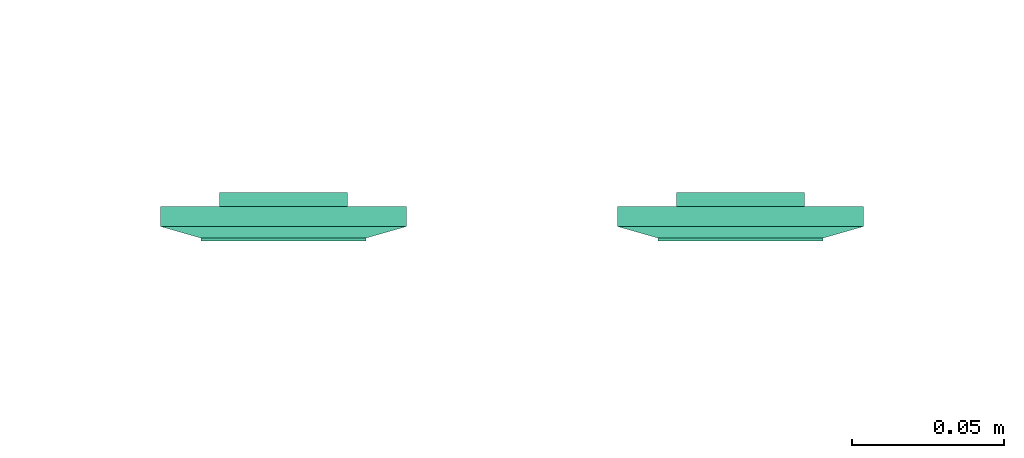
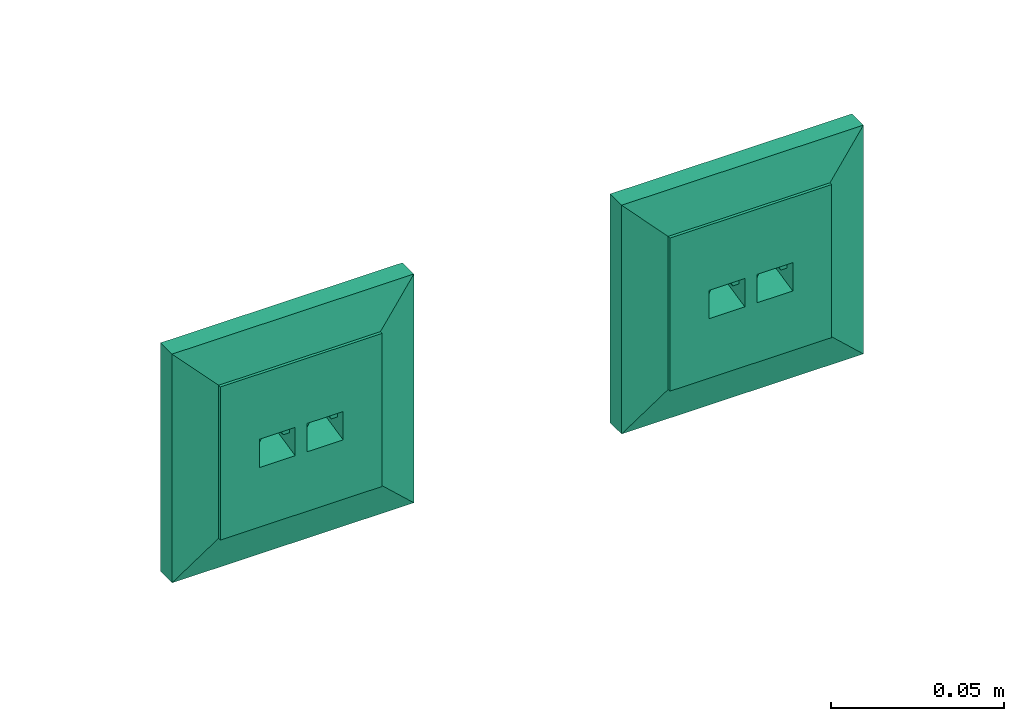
# One storey, part 141 of 146: 2 flow terminals.
"""IFC2X3 building model written with IfcOpenShell, lengths in metres."""

import ifcopenshell
import ifcopenshell.guid

model = None  # the IFC model being written
_history = None  # IfcOwnerHistory: only IFC2X3 demands one
_inside = {}  # id of a spatial element -> (the spatial element, [elements in it])
_under = {}  # id of a project, library or spatial element -> (it, [spatial elements below it])
_declared = {}  # id of a project -> (the project, [libraries it declares])
_typed = {}  # id of a type object -> (the type object, [elements of that type])
_made_of = {}  # id of a material, layer set ... -> (it, [elements and type objects made of it])


def new_model(schema):
    """Start an empty IFC model of exactly this schema.

    Asked for "IFC4X3", IfcOpenShell would pick the latest addendum, in which some entities
    have other attributes; the version numbers below select the first issue.
    IFC2X3 requires an IfcOwnerHistory on every rooted entity: one is made here for all.
    """
    global model, _history
    if schema == "IFC4X3":
        model = ifcopenshell.file(schema_version=(4, 3, 0, 0))
    else:
        model = ifcopenshell.file(schema=schema)
    _inside.clear()
    _under.clear()
    _declared.clear()
    _typed.clear()
    _made_of.clear()
    _history = None
    if model.schema == "IFC2X3":
        org = make("IfcOrganization", Name="unknown")
        user = make(
            "IfcPersonAndOrganization",
            ThePerson=make("IfcPerson", FamilyName="unknown"),
            TheOrganization=org,
        )
        app = make(
            "IfcApplication",
            ApplicationDeveloper=org,
            Version="unknown",
            ApplicationFullName="unknown",
            ApplicationIdentifier="unknown",
        )
        _history = make(
            "IfcOwnerHistory",
            OwningUser=user,
            OwningApplication=app,
            ChangeAction="ADDED",
            CreationDate=0,
        )
    return model


def make(cls, **values):
    """One entity of the class cls with the attributes given. An attribute that is None is left unset."""
    return model.create_entity(
        cls, **{name: value for name, value in values.items() if value is not None}
    )


def entity(cls, *values):
    """Any entity or typed value of the class cls, its attributes in the order of the schema. None: left unset."""
    e = model.create_entity(cls)
    for i, value in enumerate(values):
        if value is not None:
            e[i] = value
    return e


def rooted(cls, **values):
    """An entity with a GlobalId (a new one), such as an element, a storey or a relation."""
    return make(cls, GlobalId=ifcopenshell.guid.new(), OwnerHistory=_history, **values)


def si_unit(unit_type, name, prefix=None):
    """IfcSIUnit, for example si_unit("LENGTHUNIT", "METRE", prefix="MILLI")."""
    return make("IfcSIUnit", UnitType=unit_type, Prefix=prefix, Name=name)


def converted_unit(unit_type, name, factor, base, dimensions=None, offset=None):
    """IfcConversionBasedUnit, such as the inch: factor (a typed value) times the base unit."""
    return make(
        "IfcConversionBasedUnit"
        if offset is None
        else "IfcConversionBasedUnitWithOffset",
        ConversionOffset=offset,
        Dimensions=None
        if dimensions is None
        else entity("IfcDimensionalExponents", *dimensions),
        UnitType=unit_type,
        Name=name,
        ConversionFactor=make(
            "IfcMeasureWithUnit", ValueComponent=factor, UnitComponent=base
        ),
    )


def derived_unit(unit_type, elements):
    """IfcDerivedUnit: a product of units, each with its exponent."""
    return make(
        "IfcDerivedUnit",
        Elements=[
            make("IfcDerivedUnitElement", Unit=unit, Exponent=power)
            for unit, power in elements
        ],
        UnitType=unit_type,
    )


def assignment(units):
    """IfcUnitAssignment: the units of a project."""
    return None if units is None else make("IfcUnitAssignment", Units=units)


def point(xyz):
    """IfcCartesianPoint."""
    return None if xyz is None else make("IfcCartesianPoint", Coordinates=xyz)


def direction(xyz):
    """IfcDirection."""
    return None if xyz is None else make("IfcDirection", DirectionRatios=xyz)


def frame(location, z_axis=None, x_axis=None):
    """IfcAxis2Placement3D, a coordinate frame: its origin and axes. An axis left out is left unset."""
    return make(
        "IfcAxis2Placement3D",
        Location=point(location),
        Axis=direction(z_axis),
        RefDirection=direction(x_axis),
    )


def origin():
    """The frame at (0, 0, 0) with its axes left unset."""
    return frame((0.0, 0.0, 0.0))


def place(relative_to, where):
    """IfcLocalPlacement: puts the frame where relative to a parent placement (None: the world)."""
    return make(
        "IfcLocalPlacement", PlacementRelTo=relative_to, RelativePlacement=where
    )


def context(
    kind, dimensions, precision=None, world=None, true_north=None, identifier=None
):
    """IfcGeometricRepresentationContext, for example the 3D "Model" context."""
    return make(
        "IfcGeometricRepresentationContext",
        ContextIdentifier=identifier,
        ContextType=kind,
        CoordinateSpaceDimension=dimensions,
        Precision=precision,
        WorldCoordinateSystem=world,
        TrueNorth=true_north,
    )


def subcontext(parent, identifier, kind, view, scale=None):
    """IfcGeometricRepresentationSubContext, for example "Body" below "Model"."""
    return make(
        "IfcGeometricRepresentationSubContext",
        ContextIdentifier=identifier,
        ContextType=kind,
        ParentContext=parent,
        TargetScale=scale,
        TargetView=view,
    )


def project(units=None, contexts=None):
    """IfcProject with its units and contexts."""
    return rooted(
        "IfcProject",
        Name="project",
        RepresentationContexts=contexts,
        UnitsInContext=assignment(units),
    )


def spatial(cls, under=None, at=None, **own):
    """A site, building, storey or space (cls), placed at a placement, below another one or the project."""
    s = rooted(cls, ObjectPlacement=at, **own)
    if under is not None:
        _under.setdefault(under.id(), (under, []))[1].append(s)
    return s


def faces_of(points, faces, orient=None, outer=None):
    """IfcFace entities. A face is a list of loops; a loop is a list of indices into points, from 0.

    orient and outer hold one flag for each loop. By default every Orientation is true, the
    first loop of a face is its IfcFaceOuterBound and the others are IfcFaceBound.
    """
    made = []
    for i, loops in enumerate(faces):
        bounds = []
        for j, loop in enumerate(loops):
            is_outer = j == 0 if outer is None else outer[i][j]
            bounds.append(
                make(
                    "IfcFaceOuterBound" if is_outer else "IfcFaceBound",
                    Bound=make("IfcPolyLoop", Polygon=[points[k] for k in loop]),
                    Orientation=True if orient is None else orient[i][j],
                )
            )
        made.append(make("IfcFace", Bounds=bounds))
    return made


def faceted_brep(points, faces, orient=None, outer=None, voids=None):
    """IfcFacetedBrep: a solid bounded by flat faces; with voids (closed shells), ...WithVoids."""
    shared = [point(p) for p in points]
    hull = make("IfcClosedShell", CfsFaces=faces_of(shared, faces, orient, outer))
    if voids is None:
        return make("IfcFacetedBrep", Outer=hull)
    return make(
        "IfcFacetedBrepWithVoids",
        Outer=hull,
        Voids=[
            make(cls, CfsFaces=faces_of(shared, fs, o, b)) for cls, fs, o, b in voids
        ],
    )


def shape(context_of_items, identifier, shape_type, items):
    """IfcShapeRepresentation: the items that make up one representation, for example the "Body"."""
    return make(
        "IfcShapeRepresentation",
        ContextOfItems=context_of_items,
        RepresentationIdentifier=identifier,
        RepresentationType=shape_type,
        Items=items,
    )


def source(mapping_origin, context_of_items, identifier, shape_type, items):
    """IfcRepresentationMap: a shape defined once, which mapped items show again and again."""
    return make(
        "IfcRepresentationMap",
        MappingOrigin=mapping_origin,
        MappedRepresentation=shape(context_of_items, identifier, shape_type, items),
    )


def transform(
    local_origin,
    x_axis=None,
    y_axis=None,
    z_axis=None,
    scale=None,
    scale2=None,
    scale3=None,
    uniform=True,
):
    """IfcCartesianTransformationOperator3D, or its non-uniform kind. x_axis, y_axis, z_axis: its Axis1, 2, 3."""
    if uniform:
        return make(
            "IfcCartesianTransformationOperator3D",
            Axis1=direction(x_axis),
            Axis2=direction(y_axis),
            LocalOrigin=point(local_origin),
            Scale=scale,
            Axis3=direction(z_axis),
        )
    return make(
        "IfcCartesianTransformationOperator3DnonUniform",
        Axis1=direction(x_axis),
        Axis2=direction(y_axis),
        LocalOrigin=point(local_origin),
        Scale=scale,
        Axis3=direction(z_axis),
        Scale2=scale2,
        Scale3=scale3,
    )


def mapped(mapping_source, mapping_target):
    """IfcMappedItem: shows the shape of a source again, moved by a transform."""
    return make(
        "IfcMappedItem", MappingSource=mapping_source, MappingTarget=mapping_target
    )


def made_of(thing, what):
    """Note that an element or type object is made of a material, layer set ...; save() writes the relation."""
    if what is not None:
        _made_of.setdefault(what.id(), (what, []))[1].append(thing)
    return thing


def type_object(cls, material=None, **own):
    """A type object (cls), such as IfcWallType, which elements share."""
    return made_of(rooted(cls, **own), material)


def type_shapes(of_type, sources):
    """Give a type object the sources (RepresentationMaps) that its elements show as mapped items."""
    of_type.RepresentationMaps = sources


def element(
    cls,
    number,
    at=None,
    inside=None,
    cuts=None,
    type_object=None,
    material=None,
    context=None,
    identifier="Body",
    shape_type=None,
    held_by="IfcProductDefinitionShape",
    body=None,
    shapes=None,
    **own,
):
    """One element of the class cls, such as IfcWall. Its Tag is "e" and its number.

    at: its placement. inside: the storey or other place that contains it. cuts: it is an
    opening in that element (IfcRelVoidsElement). A single representation is given by context,
    identifier, shape_type and body (its items); several are given by shapes. held_by: the class
    of the entity that holds the representations. save() writes the other relations.
    """
    e = rooted(cls, Tag="e%d" % number, ObjectPlacement=at, **own)
    if body is not None:
        shapes = [shape(context, identifier, shape_type, body)]
    if shapes is not None:
        e.Representation = make(held_by, Representations=shapes)
    if inside is not None:
        _inside.setdefault(inside.id(), (inside, []))[1].append(e)
    if cuts is not None:
        rooted(
            "IfcRelVoidsElement", RelatingBuildingElement=cuts, RelatedOpeningElement=e
        )
    if type_object is not None:
        _typed.setdefault(type_object.id(), (type_object, []))[1].append(e)
    return made_of(e, material)


def aggregate(whole, parts):
    """IfcRelAggregates: a whole, such as a stair, and the parts it consists of."""
    return rooted("IfcRelAggregates", RelatingObject=whole, RelatedObjects=parts)


def save(model, path):
    """Write the relations noted so far, then the file.

    IfcRelAggregates (storeys below a building ...), IfcRelContainedInSpatialStructure (elements
    in a storey), IfcRelDefinesByType, IfcRelAssociatesMaterial and IfcRelDeclares: one each for
    every whole, place, type object, material and project.
    """
    for whole, parts in _under.values():
        aggregate(whole, parts)
    for where, things in _inside.values():
        rooted(
            "IfcRelContainedInSpatialStructure",
            RelatedElements=things,
            RelatingStructure=where,
        )
    for kind, things in _typed.values():
        rooted("IfcRelDefinesByType", RelatedObjects=things, RelatingType=kind)
    for what, things in _made_of.values():
        rooted("IfcRelAssociatesMaterial", RelatedObjects=things, RelatingMaterial=what)
    for by, libraries in _declared.values():
        rooted("IfcRelDeclares", RelatingContext=by, RelatedDefinitions=libraries)
    model.write(path)


model = new_model("IFC2X3")

# Units and contexts
model_context = context("Model", 3, precision=1e-05, world=origin(), true_north=direction((6.12303176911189e-17, 1.0)))
body_context = subcontext(model_context, "Body", "Model", "MODEL_VIEW")
ifc_project = project(units=[si_unit("LENGTHUNIT", "METRE"), si_unit("AREAUNIT", "SQUARE_METRE"), si_unit("VOLUMEUNIT", "CUBIC_METRE"), converted_unit("PLANEANGLEUNIT", "DEGREE", entity("IfcRatioMeasure", 0.0174532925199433), si_unit("PLANEANGLEUNIT", "RADIAN"), dimensions=[0, 0, 0, 0, 0, 0, 0]), si_unit("MASSUNIT", "GRAM", prefix="KILO"), derived_unit("MASSDENSITYUNIT", [(si_unit("MASSUNIT", "GRAM", prefix="KILO"), 1), (si_unit("LENGTHUNIT", "METRE"), -3)]), si_unit("TIMEUNIT", "SECOND"), si_unit("FREQUENCYUNIT", "HERTZ"), si_unit("THERMODYNAMICTEMPERATUREUNIT", "DEGREE_CELSIUS"), derived_unit("THERMALTRANSMITTANCEUNIT", [(si_unit("MASSUNIT", "GRAM", prefix="KILO"), 1), (si_unit("THERMODYNAMICTEMPERATUREUNIT", "KELVIN"), -1), (si_unit("TIMEUNIT", "SECOND"), -3)]), derived_unit("VOLUMETRICFLOWRATEUNIT", [(si_unit("LENGTHUNIT", "METRE"), 3), (si_unit("TIMEUNIT", "SECOND"), -1)]), si_unit("ELECTRICCURRENTUNIT", "AMPERE"), si_unit("ELECTRICVOLTAGEUNIT", "VOLT"), si_unit("POWERUNIT", "WATT"), si_unit("FORCEUNIT", "NEWTON"), si_unit("ILLUMINANCEUNIT", "LUX"), si_unit("LUMINOUSFLUXUNIT", "LUMEN"), si_unit("LUMINOUSINTENSITYUNIT", "CANDELA"), derived_unit("USERDEFINED", [(si_unit("MASSUNIT", "GRAM", prefix="KILO"), -1), (si_unit("LENGTHUNIT", "METRE"), -2), (si_unit("TIMEUNIT", "SECOND"), 3), (si_unit("LUMINOUSFLUXUNIT", "LUMEN"), 1)]), derived_unit("LINEARVELOCITYUNIT", [(si_unit("LENGTHUNIT", "METRE"), 1), (si_unit("TIMEUNIT", "SECOND"), -1)]), si_unit("PRESSUREUNIT", "PASCAL"), derived_unit("USERDEFINED", [(si_unit("LENGTHUNIT", "METRE"), -2), (si_unit("MASSUNIT", "GRAM", prefix="KILO"), 1), (si_unit("TIMEUNIT", "SECOND"), -2)])], contexts=[model_context])

# Site, building, storey
site_placement = place(None, origin())
site = spatial("IfcSite", under=ifc_project, at=site_placement, Name="Default", CompositionType="ELEMENT")
building_placement = place(site_placement, origin())
building = spatial("IfcBuilding", under=site, at=building_placement, CompositionType="ELEMENT")
storey_placement = place(building_placement, origin())
storey = spatial("IfcBuildingStorey", under=building, at=storey_placement, Name="S01", CompositionType="ELEMENT", Elevation=0.0)

# Flow terminals
electric_appliance_type = type_object("IfcElectricApplianceType", Name="RJ45 IP20", PredefinedType="NOTDEFINED")
shared_shape = source(origin(), body_context, "Body", "Brep", [
    faceted_brep([(0.00200000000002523, 0.0, 0.00799999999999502), (0.00400000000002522, 0.0, 0.00799999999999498), (0.00500000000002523, 0.00199999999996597, 0.00799999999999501), (0.0110000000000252, 0.00199999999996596, 0.00799999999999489), (0.0120000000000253, 0.0, 0.00799999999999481), (0.0140000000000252, 0.0, 0.00799999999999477), (0.0140000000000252, 0.00399999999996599, 0.00799999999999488), (0.00200000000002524, 0.00399999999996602, 0.00799999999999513), (0.00200000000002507, 0.0, 0.0), (0.00200000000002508, 0.00399999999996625, 0.0), (0.0140000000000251, 0.00399999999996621, 0.0), (0.0140000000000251, 0.0, 0.0), (0.0120000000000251, 0.0, 0.0), (0.0110000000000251, 0.00199999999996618, 0.0), (0.00500000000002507, 0.0019999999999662, 0.0), (0.00400000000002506, 0.0, 0.0)], [[[0, 1, 2, 3, 4, 5, 6, 7]], [[8, 9, 10, 11, 12, 13, 14, 15]], [[1, 0, 8, 15]], [[2, 1, 15, 14]], [[3, 2, 14, 13]], [[4, 3, 13, 12]], [[5, 4, 12, 11]], [[6, 5, 11, 10]], [[7, 6, 10, 9]], [[0, 7, 9, 8]]]),
    faceted_brep([(-0.0139999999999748, 0.0, 0.00799999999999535), (-0.0119999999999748, 0.0, 0.00799999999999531), (-0.0109999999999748, 0.00199999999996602, 0.00799999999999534), (-0.00499999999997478, 0.00199999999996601, 0.00799999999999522), (-0.0039999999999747, 0.0, 0.00799999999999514), (-0.00199999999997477, 0.0, 0.0079999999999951), (-0.00199999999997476, 0.00399999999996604, 0.00799999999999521), (-0.0139999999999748, 0.00399999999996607, 0.00799999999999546), (-0.0139999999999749, 0.0, 0.0), (-0.0139999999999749, 0.00399999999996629, 0.0), (-0.00199999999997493, 0.00399999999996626, 0.0), (-0.00199999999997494, 0.0, 0.0), (-0.00399999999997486, 0.0, 0.0), (-0.00499999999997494, 0.00199999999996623, 0.0), (-0.0109999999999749, 0.00199999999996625, 0.0), (-0.0119999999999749, 0.0, 0.0)], [[[0, 1, 2, 3, 4, 5, 6, 7]], [[8, 9, 10, 11, 12, 13, 14, 15]], [[1, 0, 8, 15]], [[2, 1, 15, 14]], [[3, 2, 14, 13]], [[4, 3, 13, 12]], [[5, 4, 12, 11]], [[6, 5, 11, 10]], [[7, 6, 10, 9]], [[0, 7, 9, 8]]]),
    faceted_brep([(0.0140000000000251, 0.00399999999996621, 0.0), (0.00200000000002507, 0.00399999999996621, 0.0), (0.00200000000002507, -0.00350000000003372, 0.0), (0.0140000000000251, -0.00350000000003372, 0.0), (0.0140000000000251, 0.00399999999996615, 0.00199999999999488), (0.00200000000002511, 0.00399999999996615, 0.00199999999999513), (0.00200000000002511, -0.00393859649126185, 0.00199999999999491), (0.0140000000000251, -0.00393859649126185, 0.00199999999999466), (0.0210000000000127, 0.0209999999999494, 0.00199999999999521), (-0.0209999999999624, 0.0209999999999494, 0.00199999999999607), (-0.0209999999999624, -0.0210000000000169, 0.00199999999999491), (0.0210000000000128, -0.0210000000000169, 0.00199999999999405), (-0.0139999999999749, 0.0039999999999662, 0.00199999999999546), (-0.0019999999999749, 0.0039999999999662, 0.00199999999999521), (-0.00199999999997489, -0.0039385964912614, 0.00199999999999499), (-0.0139999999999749, -0.00393859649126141, 0.00199999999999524), (0.0210000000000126, 0.0209999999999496, -0.00460000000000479), (0.0210000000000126, -0.0210000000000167, -0.00460000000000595), (-0.0209999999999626, -0.0210000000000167, -0.00460000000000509), (-0.0209999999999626, 0.0209999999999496, -0.00460000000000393), (-0.00199999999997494, 0.00399999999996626, 0.0), (-0.0139999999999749, 0.00399999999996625, 0.0), (-0.0139999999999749, -0.00350000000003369, 0.0), (-0.00199999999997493, -0.00350000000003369, 0.0)], [[[0, 1, 2, 3]], [[1, 0, 4, 5]], [[2, 1, 5, 6]], [[3, 2, 6, 7]], [[0, 3, 7, 4]], [[5, 4, 7, 6], [8, 9, 10, 11], [12, 13, 14, 15]], [[16, 17, 18, 19]], [[9, 8, 16, 19]], [[10, 9, 19, 18]], [[11, 10, 18, 17]], [[8, 11, 17, 16]], [[20, 21, 22, 23]], [[21, 20, 13, 12]], [[22, 21, 12, 15]], [[23, 22, 15, 14]], [[20, 23, 14, 13]]], outer=[[True], [True], [True], [True], [True], [False, True, False], [True], [True], [True], [True], [True], [True], [True], [True], [True], [True]]),
    faceted_brep([(0.0270000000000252, 0.026999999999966, 0.0113999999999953), (-0.0269999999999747, 0.026999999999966, 0.0113999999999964), (-0.0269999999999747, -0.0270000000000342, 0.0113999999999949), (0.0270000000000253, -0.0270000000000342, 0.0113999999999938), (0.0020000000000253, 0.00399999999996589, 0.0113999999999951), (0.0140000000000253, 0.00399999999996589, 0.0113999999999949), (0.0140000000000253, -0.00600000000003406, 0.0113999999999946), (0.0020000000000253, -0.00600000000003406, 0.0113999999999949), (-0.0139999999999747, 0.00399999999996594, 0.0113999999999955), (-0.00199999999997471, 0.00399999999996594, 0.0113999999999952), (-0.00199999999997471, -0.0060000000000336, 0.0113999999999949), (-0.0139999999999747, -0.00600000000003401, 0.0113999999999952), (0.0270000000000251, 0.0269999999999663, 0.00199999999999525), (0.0270000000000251, -0.0270000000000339, 0.00199999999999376), (-0.0269999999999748, -0.0270000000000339, 0.00199999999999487), (-0.0269999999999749, 0.0269999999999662, 0.00199999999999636), (0.0140000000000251, 0.00399999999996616, 0.00199999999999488), (0.00200000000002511, 0.00399999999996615, 0.00199999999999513), (0.00200000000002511, -0.00393859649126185, 0.00199999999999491), (0.0140000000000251, -0.00393859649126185, 0.00199999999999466), (-0.00199999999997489, 0.0039999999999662, 0.00199999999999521), (-0.0139999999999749, 0.0039999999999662, 0.00199999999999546), (-0.0139999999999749, -0.0039385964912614, 0.00199999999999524), (-0.00199999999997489, -0.0039385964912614, 0.00199999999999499)], [[[0, 1, 2, 3], [4, 5, 6, 7], [8, 9, 10, 11]], [[12, 13, 14, 15], [16, 17, 18, 19], [20, 21, 22, 23]], [[1, 0, 12, 15]], [[2, 1, 15, 14]], [[3, 2, 14, 13]], [[0, 3, 13, 12]], [[4, 17, 16, 5]], [[17, 4, 7, 18]], [[18, 7, 6, 19]], [[5, 16, 19, 6]], [[8, 21, 20, 9]], [[21, 8, 11, 22]], [[22, 11, 10, 23]], [[9, 20, 23, 10]]]),
    faceted_brep([(0.027000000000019, 0.0269999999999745, 0.00659999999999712), (-0.0269999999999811, 0.0269999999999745, 0.00659999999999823), (-0.026999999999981, -0.0270000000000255, 0.00659999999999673), (0.027000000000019, -0.0270000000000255, 0.00659999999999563), (0.040350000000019, 0.0403499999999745, 0.00659999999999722), (0.040350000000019, -0.0403500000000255, 0.00659999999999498), (-0.0403499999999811, -0.0403500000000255, 0.00659999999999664), (-0.0403499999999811, 0.0403499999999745, 0.00659999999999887), (-0.026999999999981, 0.0269999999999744, 0.0103999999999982), (0.027000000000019, 0.0269999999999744, 0.0103999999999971), (-0.026999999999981, -0.0270000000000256, 0.0103999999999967), (0.027000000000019, -0.0270000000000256, 0.0103999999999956)], [[[0, 1, 2, 3], [4, 5, 6, 7]], [[4, 7, 8, 9]], [[7, 6, 10, 8]], [[6, 5, 11, 10]], [[5, 4, 9, 11]], [[0, 9, 8, 1]], [[1, 8, 10, 2]], [[2, 10, 11, 3]], [[9, 0, 3, 11]]], outer=[[False, True], [True], [True], [True], [True], [True], [True], [True], [True]]),
    faceted_brep([(0.040350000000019, 0.0403499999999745, 0.00659999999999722), (-0.0403499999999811, 0.0403499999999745, 0.00659999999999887), (-0.0403499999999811, -0.0403500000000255, 0.00659999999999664), (0.040350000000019, -0.0403500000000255, 0.00659999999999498), (-0.0269999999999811, 0.0269999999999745, 0.00659999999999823), (0.0270000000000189, 0.0269999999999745, 0.00659999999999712), (0.0270000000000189, -0.0270000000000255, 0.00659999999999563), (-0.0269999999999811, -0.0270000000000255, 0.00659999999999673), (0.0403500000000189, 0.0403499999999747, 0.0), (0.0403500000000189, -0.0403500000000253, 0.0), (-0.0403499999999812, -0.0403500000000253, 0.0), (-0.0403499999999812, 0.0403499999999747, 0.0), (0.0270000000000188, 0.0269999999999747, 0.0), (-0.0269999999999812, 0.0269999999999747, 0.0), (-0.0269999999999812, -0.0270000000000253, 0.0), (0.0270000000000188, -0.0270000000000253, 0.0)], [[[0, 1, 2, 3], [4, 5, 6, 7]], [[8, 9, 10, 11], [12, 13, 14, 15]], [[1, 0, 8, 11]], [[2, 1, 11, 10]], [[3, 2, 10, 9]], [[0, 3, 9, 8]], [[12, 5, 4, 13]], [[13, 4, 7, 14]], [[14, 7, 6, 15]], [[5, 12, 15, 6]]]),
])
type_shapes(electric_appliance_type, [shared_shape])
for number, where, z_axis, x_axis in (
    (1, (67.6255013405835, -185.264069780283, 0.320000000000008), (0.0, -1.0, 0.0), (1.0, 0.0, 0.0)),
    (2, (67.4755013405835, -185.264069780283, 0.320000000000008), (0.0, -1.0, 0.0), (1.0, 0.0, 0.0)),
):
    element("IfcFlowTerminal", number, at=place(storey_placement, frame(where, z_axis=z_axis, x_axis=x_axis)), inside=storey, type_object=electric_appliance_type, Name="INT_Prise RJ45:RJ45 IP20", ObjectType="INT_Prise RJ45:RJ45 IP20", context=body_context, shape_type="MappedRepresentation", body=[
        mapped(shared_shape, transform((0.0, 0.0, 0.0), scale=1.0)),
    ])

save(model, "model.ifc")
